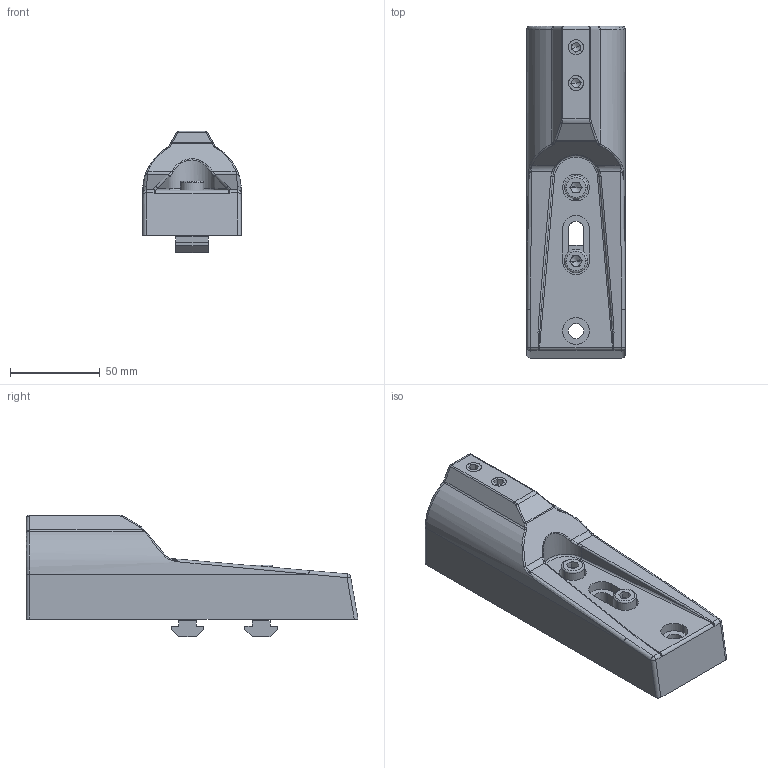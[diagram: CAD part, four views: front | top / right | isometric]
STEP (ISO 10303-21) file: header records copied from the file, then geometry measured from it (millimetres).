
FILE_DESCRIPTION (( 'STEP AP203' ), '1' );
FILE_NAME ('SPS.BA.S.ST.STEP', '2014-05-20T05:48:49', ( 'USER' ), ( 'Microsoft' ), 'SwSTEP 2.0', 'SolidWorks 2012', '' );
FILE_SCHEMA (( 'CONFIG_CONTROL_DESIGN' ));
Length unit declared in the file: millimetre
Products named in the file (6): SPS.BA.S.ST; hex socket set screws with flat point gb_GB_FASTENER_SCREWS_HSFP M10X12-C; 2.11.10.M8; hexagon socket head cap screws gb_GB_FASTENER_SCREWS_HSHCS M8X30-C; spring lock washers--normal type gb_GB_FASTENER_WASHER_SW 8; 耜晚盓釱
Assembly tree (9 placements, depth 2):
  SPS.BA.S.ST
    耜晚盓釱
    spring lock washers--normal type gb_GB_FASTENER_WASHER_SW 8  x2
    hexagon socket head cap screws gb_GB_FASTENER_SCREWS_HSHCS M8X30-C  x2
    2.11.10.M8  x2
    hex socket set screws with flat point gb_GB_FASTENER_SCREWS_HSFP M10X12-C  x2
Bounding box: 55 x 185 x 68 mm (x, y, z)
Volume: 280960.3 mm3; surface area: 55879.2 mm2
Topology: 9 solids, 9 shells, 255 faces, 604 edges, 360 vertices
Faces by surface type: plane 114, cylinder 79, bspline 31, cone 20, torus 9, sphere 2
Entity records: 6981 total; most frequent: CARTESIAN_POINT 2243, ORIENTED_EDGE 852, DIRECTION 828, EDGE_CURVE 426, AXIS2_PLACEMENT_3D 313, VERTEX_POINT 258, VECTOR 202, LINE 202
